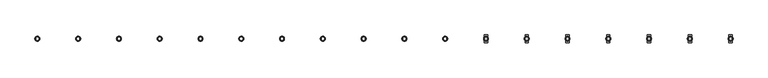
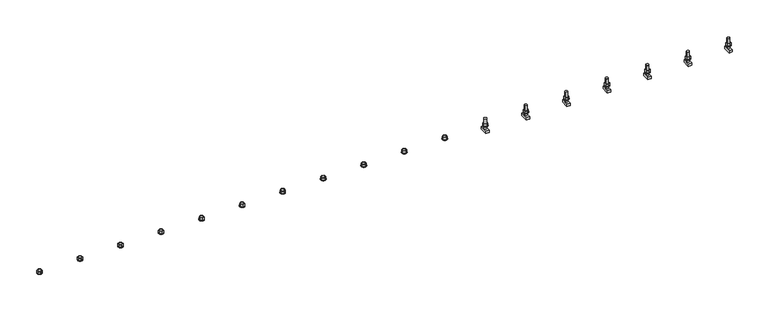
"""IFC4 building model written with IfcOpenShell, lengths in millimetres: fastener geometry, JTA-K JORDAHL® AnchorChannels : JTA-K L=6000 mm."""

from ifc_helpers import new_model, si_unit, point, frame, frame_2d, origin, place, context, project, spatial, polyline, circle_curve, trimmed, segment, composite_curve, outline, extrude, source, transform, mapped, element, save
from ifc_brep_helpers import plane_surface, cylinder_surface, advanced_brep


def fastener_20ff117f(model_context):
    return source(origin(), model_context, "Body", "SolidModel", [
        extrude(outline(polyline([(5617.1052632, -17.3205081), (5602.1052632, -8.660254), (5602.1052632, 8.660254), (5617.1052632, 17.3205081), (5632.1052632, 8.660254), (5632.1052632, -8.660254), (5617.1052632, -17.3205081)]), holes=[composite_curve([segment(trimmed(circle_curve(frame_2d((5617.1052632, 0.0)), 10.0), [point((5607.1052632, 0.0))], [point((5627.1052632, 0.0))], True, "CARTESIAN"), True, "CONTINUOUS"), segment(trimmed(circle_curve(frame_2d((5617.1052632, 0.0)), 10.0), [point((5627.1052632, 0.0))], [point((5607.1052632, 0.0))], True, "CARTESIAN"), True, "CONTINUOUS")], self_intersect=False)]), frame((0.0, 0.0, 18.0), z_axis=(0.0, 0.0, 1.0), x_axis=(1.0, 0.0, 0.0)), (0.0, 0.0, 1.0), 18.0),
        extrude(outline(composite_curve([segment(trimmed(circle_curve(frame_2d((5617.1052632, 0.0)), 18.5), [point((5598.6052632, 0.0))], [point((5635.6052632, 0.0))], False, "CARTESIAN"), True, "CONTINUOUS"), segment(trimmed(circle_curve(frame_2d((5617.1052632, 0.0)), 18.5), [point((5635.6052632, 0.0))], [point((5598.6052632, 0.0))], False, "CARTESIAN"), True, "CONTINUOUS")], self_intersect=False), holes=[composite_curve([segment(trimmed(circle_curve(frame_2d((5617.1052632, 0.0)), 10.5), [point((5606.6052632, 0.0))], [point((5627.6052632, 0.0))], True, "CARTESIAN"), True, "CONTINUOUS"), segment(trimmed(circle_curve(frame_2d((5617.1052632, 0.0)), 10.5), [point((5627.6052632, 0.0))], [point((5606.6052632, 0.0))], True, "CARTESIAN"), True, "CONTINUOUS")], self_intersect=False)]), frame((0.0, 0.0, 15.0), z_axis=(0.0, 0.0, 1.0), x_axis=(1.0, 0.0, 0.0)), (0.0, 0.0, 1.0), 3.0),
        extrude(outline(polyline([(5309.2105263, -17.3205081), (5294.2105263, -8.660254), (5294.2105263, 8.660254), (5309.2105263, 17.3205081), (5324.2105263, 8.660254), (5324.2105263, -8.660254), (5309.2105263, -17.3205081)]), holes=[composite_curve([segment(trimmed(circle_curve(frame_2d((5309.2105263, 0.0)), 10.0), [point((5299.2105263, 0.0))], [point((5319.2105263, 0.0))], True, "CARTESIAN"), True, "CONTINUOUS"), segment(trimmed(circle_curve(frame_2d((5309.2105263, 0.0)), 10.0), [point((5319.2105263, 0.0))], [point((5299.2105263, 0.0))], True, "CARTESIAN"), True, "CONTINUOUS")], self_intersect=False)]), frame((0.0, 0.0, 18.0), z_axis=(0.0, 0.0, 1.0), x_axis=(1.0, 0.0, 0.0)), (0.0, 0.0, 1.0), 18.0),
        extrude(outline(composite_curve([segment(trimmed(circle_curve(frame_2d((5309.2105263, 0.0)), 18.5), [point((5290.7105263, 0.0))], [point((5327.7105263, 0.0))], False, "CARTESIAN"), True, "CONTINUOUS"), segment(trimmed(circle_curve(frame_2d((5309.2105263, 0.0)), 18.5), [point((5327.7105263, 0.0))], [point((5290.7105263, 0.0))], False, "CARTESIAN"), True, "CONTINUOUS")], self_intersect=False), holes=[composite_curve([segment(trimmed(circle_curve(frame_2d((5309.2105263, 0.0)), 10.5), [point((5298.7105263, 0.0))], [point((5319.7105263, 0.0))], True, "CARTESIAN"), True, "CONTINUOUS"), segment(trimmed(circle_curve(frame_2d((5309.2105263, 0.0)), 10.5), [point((5319.7105263, 0.0))], [point((5298.7105263, 0.0))], True, "CARTESIAN"), True, "CONTINUOUS")], self_intersect=False)]), frame((0.0, 0.0, 15.0), z_axis=(0.0, 0.0, 1.0), x_axis=(1.0, 0.0, 0.0)), (0.0, 0.0, 1.0), 3.0),
        extrude(outline(polyline([(5001.3157895, -17.3205081), (4986.3157895, -8.660254), (4986.3157895, 8.660254), (5001.3157895, 17.3205081), (5016.3157895, 8.660254), (5016.3157895, -8.660254), (5001.3157895, -17.3205081)]), holes=[composite_curve([segment(trimmed(circle_curve(frame_2d((5001.3157895, 0.0)), 10.0), [point((4991.3157895, 0.0))], [point((5011.3157895, 0.0))], True, "CARTESIAN"), True, "CONTINUOUS"), segment(trimmed(circle_curve(frame_2d((5001.3157895, 0.0)), 10.0), [point((5011.3157895, 0.0))], [point((4991.3157895, 0.0))], True, "CARTESIAN"), True, "CONTINUOUS")], self_intersect=False)]), frame((0.0, 0.0, 18.0), z_axis=(0.0, 0.0, 1.0), x_axis=(1.0, 0.0, 0.0)), (0.0, 0.0, 1.0), 18.0),
        extrude(outline(composite_curve([segment(trimmed(circle_curve(frame_2d((5001.3157895, 0.0)), 18.5), [point((4982.8157895, 0.0))], [point((5019.8157895, 0.0))], False, "CARTESIAN"), True, "CONTINUOUS"), segment(trimmed(circle_curve(frame_2d((5001.3157895, 0.0)), 18.5), [point((5019.8157895, 0.0))], [point((4982.8157895, 0.0))], False, "CARTESIAN"), True, "CONTINUOUS")], self_intersect=False), holes=[composite_curve([segment(trimmed(circle_curve(frame_2d((5001.3157895, 0.0)), 10.5), [point((4990.8157895, 0.0))], [point((5011.8157895, 0.0))], True, "CARTESIAN"), True, "CONTINUOUS"), segment(trimmed(circle_curve(frame_2d((5001.3157895, 0.0)), 10.5), [point((5011.8157895, 0.0))], [point((4990.8157895, 0.0))], True, "CARTESIAN"), True, "CONTINUOUS")], self_intersect=False)]), frame((0.0, 0.0, 15.0), z_axis=(0.0, 0.0, 1.0), x_axis=(1.0, 0.0, 0.0)), (0.0, 0.0, 1.0), 3.0),
        extrude(outline(polyline([(4693.4210526, -17.3205081), (4678.4210526, -8.660254), (4678.4210526, 8.660254), (4693.4210526, 17.3205081), (4708.4210526, 8.660254), (4708.4210526, -8.660254), (4693.4210526, -17.3205081)]), holes=[composite_curve([segment(trimmed(circle_curve(frame_2d((4693.4210526, 0.0)), 10.0), [point((4683.4210526, 0.0))], [point((4703.4210526, 0.0))], True, "CARTESIAN"), True, "CONTINUOUS"), segment(trimmed(circle_curve(frame_2d((4693.4210526, 0.0)), 10.0), [point((4703.4210526, 0.0))], [point((4683.4210526, 0.0))], True, "CARTESIAN"), True, "CONTINUOUS")], self_intersect=False)]), frame((0.0, 0.0, 18.0), z_axis=(0.0, 0.0, 1.0), x_axis=(1.0, 0.0, 0.0)), (0.0, 0.0, 1.0), 18.0),
        extrude(outline(composite_curve([segment(trimmed(circle_curve(frame_2d((4693.4210526, 0.0)), 18.5), [point((4674.9210526, 0.0))], [point((4711.9210526, 0.0))], False, "CARTESIAN"), True, "CONTINUOUS"), segment(trimmed(circle_curve(frame_2d((4693.4210526, 0.0)), 18.5), [point((4711.9210526, 0.0))], [point((4674.9210526, 0.0))], False, "CARTESIAN"), True, "CONTINUOUS")], self_intersect=False), holes=[composite_curve([segment(trimmed(circle_curve(frame_2d((4693.4210526, 0.0)), 10.5), [point((4682.9210526, 0.0))], [point((4703.9210526, 0.0))], True, "CARTESIAN"), True, "CONTINUOUS"), segment(trimmed(circle_curve(frame_2d((4693.4210526, 0.0)), 10.5), [point((4703.9210526, 0.0))], [point((4682.9210526, 0.0))], True, "CARTESIAN"), True, "CONTINUOUS")], self_intersect=False)]), frame((0.0, 0.0, 15.0), z_axis=(0.0, 0.0, 1.0), x_axis=(1.0, 0.0, 0.0)), (0.0, 0.0, 1.0), 3.0),
        extrude(outline(polyline([(4385.5263158, -17.3205081), (4370.5263158, -8.660254), (4370.5263158, 8.660254), (4385.5263158, 17.3205081), (4400.5263158, 8.660254), (4400.5263158, -8.660254), (4385.5263158, -17.3205081)]), holes=[composite_curve([segment(trimmed(circle_curve(frame_2d((4385.5263158, 0.0)), 10.0), [point((4375.5263158, 0.0))], [point((4395.5263158, 0.0))], True, "CARTESIAN"), True, "CONTINUOUS"), segment(trimmed(circle_curve(frame_2d((4385.5263158, 0.0)), 10.0), [point((4395.5263158, 0.0))], [point((4375.5263158, 0.0))], True, "CARTESIAN"), True, "CONTINUOUS")], self_intersect=False)]), frame((0.0, 0.0, 18.0), z_axis=(0.0, 0.0, 1.0), x_axis=(1.0, 0.0, 0.0)), (0.0, 0.0, 1.0), 18.0),
        extrude(outline(composite_curve([segment(trimmed(circle_curve(frame_2d((4385.5263158, 0.0)), 18.5), [point((4367.0263158, 0.0))], [point((4404.0263158, 0.0))], False, "CARTESIAN"), True, "CONTINUOUS"), segment(trimmed(circle_curve(frame_2d((4385.5263158, 0.0)), 18.5), [point((4404.0263158, 0.0))], [point((4367.0263158, 0.0))], False, "CARTESIAN"), True, "CONTINUOUS")], self_intersect=False), holes=[composite_curve([segment(trimmed(circle_curve(frame_2d((4385.5263158, 0.0)), 10.5), [point((4375.0263158, 0.0))], [point((4396.0263158, 0.0))], True, "CARTESIAN"), True, "CONTINUOUS"), segment(trimmed(circle_curve(frame_2d((4385.5263158, 0.0)), 10.5), [point((4396.0263158, 0.0))], [point((4375.0263158, 0.0))], True, "CARTESIAN"), True, "CONTINUOUS")], self_intersect=False)]), frame((0.0, 0.0, 15.0), z_axis=(0.0, 0.0, 1.0), x_axis=(1.0, 0.0, 0.0)), (0.0, 0.0, 1.0), 3.0),
        extrude(outline(polyline([(4077.6315789, -17.3205081), (4062.6315789, -8.660254), (4062.6315789, 8.660254), (4077.6315789, 17.3205081), (4092.6315789, 8.660254), (4092.6315789, -8.660254), (4077.6315789, -17.3205081)]), holes=[composite_curve([segment(trimmed(circle_curve(frame_2d((4077.6315789, 0.0)), 10.0), [point((4067.6315789, 0.0))], [point((4087.6315789, 0.0))], True, "CARTESIAN"), True, "CONTINUOUS"), segment(trimmed(circle_curve(frame_2d((4077.6315789, 0.0)), 10.0), [point((4087.6315789, 0.0))], [point((4067.6315789, 0.0))], True, "CARTESIAN"), True, "CONTINUOUS")], self_intersect=False)]), frame((0.0, 0.0, 18.0), z_axis=(0.0, 0.0, 1.0), x_axis=(1.0, 0.0, 0.0)), (0.0, 0.0, 1.0), 18.0),
        extrude(outline(composite_curve([segment(trimmed(circle_curve(frame_2d((4077.6315789, 0.0)), 18.5), [point((4059.1315789, 0.0))], [point((4096.1315789, 0.0))], False, "CARTESIAN"), True, "CONTINUOUS"), segment(trimmed(circle_curve(frame_2d((4077.6315789, 0.0)), 18.5), [point((4096.1315789, 0.0))], [point((4059.1315789, 0.0))], False, "CARTESIAN"), True, "CONTINUOUS")], self_intersect=False), holes=[composite_curve([segment(trimmed(circle_curve(frame_2d((4077.6315789, 0.0)), 10.5), [point((4067.1315789, 0.0))], [point((4088.1315789, 0.0))], True, "CARTESIAN"), True, "CONTINUOUS"), segment(trimmed(circle_curve(frame_2d((4077.6315789, 0.0)), 10.5), [point((4088.1315789, 0.0))], [point((4067.1315789, 0.0))], True, "CARTESIAN"), True, "CONTINUOUS")], self_intersect=False)]), frame((0.0, 0.0, 15.0), z_axis=(0.0, 0.0, 1.0), x_axis=(1.0, 0.0, 0.0)), (0.0, 0.0, 1.0), 3.0),
        extrude(outline(polyline([(3769.7368421, -17.3205081), (3754.7368421, -8.660254), (3754.7368421, 8.660254), (3769.7368421, 17.3205081), (3784.7368421, 8.660254), (3784.7368421, -8.660254), (3769.7368421, -17.3205081)]), holes=[composite_curve([segment(trimmed(circle_curve(frame_2d((3769.7368421, 0.0)), 10.0), [point((3759.7368421, 0.0))], [point((3779.7368421, 0.0))], True, "CARTESIAN"), True, "CONTINUOUS"), segment(trimmed(circle_curve(frame_2d((3769.7368421, 0.0)), 10.0), [point((3779.7368421, 0.0))], [point((3759.7368421, 0.0))], True, "CARTESIAN"), True, "CONTINUOUS")], self_intersect=False)]), frame((0.0, 0.0, 18.0), z_axis=(0.0, 0.0, 1.0), x_axis=(1.0, 0.0, 0.0)), (0.0, 0.0, 1.0), 18.0),
        extrude(outline(composite_curve([segment(trimmed(circle_curve(frame_2d((3769.7368421, 0.0)), 18.5), [point((3751.2368421, 0.0))], [point((3788.2368421, 0.0))], False, "CARTESIAN"), True, "CONTINUOUS"), segment(trimmed(circle_curve(frame_2d((3769.7368421, 0.0)), 18.5), [point((3788.2368421, 0.0))], [point((3751.2368421, 0.0))], False, "CARTESIAN"), True, "CONTINUOUS")], self_intersect=False), holes=[composite_curve([segment(trimmed(circle_curve(frame_2d((3769.7368421, 0.0)), 10.5), [point((3759.2368421, 0.0))], [point((3780.2368421, 0.0))], True, "CARTESIAN"), True, "CONTINUOUS"), segment(trimmed(circle_curve(frame_2d((3769.7368421, 0.0)), 10.5), [point((3780.2368421, 0.0))], [point((3759.2368421, 0.0))], True, "CARTESIAN"), True, "CONTINUOUS")], self_intersect=False)]), frame((0.0, 0.0, 15.0), z_axis=(0.0, 0.0, 1.0), x_axis=(1.0, 0.0, 0.0)), (0.0, 0.0, 1.0), 3.0),
        extrude(outline(polyline([(3461.8421053, -17.3205081), (3446.8421053, -8.660254), (3446.8421053, 8.660254), (3461.8421053, 17.3205081), (3476.8421053, 8.660254), (3476.8421053, -8.660254), (3461.8421053, -17.3205081)]), holes=[composite_curve([segment(trimmed(circle_curve(frame_2d((3461.8421053, 0.0)), 10.0), [point((3451.8421053, 0.0))], [point((3471.8421053, 0.0))], True, "CARTESIAN"), True, "CONTINUOUS"), segment(trimmed(circle_curve(frame_2d((3461.8421053, 0.0)), 10.0), [point((3471.8421053, 0.0))], [point((3451.8421053, 0.0))], True, "CARTESIAN"), True, "CONTINUOUS")], self_intersect=False)]), frame((0.0, 0.0, 18.0), z_axis=(0.0, 0.0, 1.0), x_axis=(1.0, 0.0, 0.0)), (0.0, 0.0, 1.0), 18.0),
        extrude(outline(composite_curve([segment(trimmed(circle_curve(frame_2d((3461.8421053, 0.0)), 18.5), [point((3443.3421053, 0.0))], [point((3480.3421053, 0.0))], False, "CARTESIAN"), True, "CONTINUOUS"), segment(trimmed(circle_curve(frame_2d((3461.8421053, 0.0)), 18.5), [point((3480.3421053, 0.0))], [point((3443.3421053, 0.0))], False, "CARTESIAN"), True, "CONTINUOUS")], self_intersect=False), holes=[composite_curve([segment(trimmed(circle_curve(frame_2d((3461.8421053, 0.0)), 10.5), [point((3451.3421053, 0.0))], [point((3472.3421053, 0.0))], True, "CARTESIAN"), True, "CONTINUOUS"), segment(trimmed(circle_curve(frame_2d((3461.8421053, 0.0)), 10.5), [point((3472.3421053, 0.0))], [point((3451.3421053, 0.0))], True, "CARTESIAN"), True, "CONTINUOUS")], self_intersect=False)]), frame((0.0, 0.0, 15.0), z_axis=(0.0, 0.0, 1.0), x_axis=(1.0, 0.0, 0.0)), (0.0, 0.0, 1.0), 3.0),
        extrude(outline(polyline([(3153.9473684, -17.3205081), (3138.9473684, -8.660254), (3138.9473684, 8.660254), (3153.9473684, 17.3205081), (3168.9473684, 8.660254), (3168.9473684, -8.660254), (3153.9473684, -17.3205081)]), holes=[composite_curve([segment(trimmed(circle_curve(frame_2d((3153.9473684, 0.0)), 10.0), [point((3143.9473684, 0.0))], [point((3163.9473684, 0.0))], True, "CARTESIAN"), True, "CONTINUOUS"), segment(trimmed(circle_curve(frame_2d((3153.9473684, 0.0)), 10.0), [point((3163.9473684, 0.0))], [point((3143.9473684, 0.0))], True, "CARTESIAN"), True, "CONTINUOUS")], self_intersect=False)]), frame((0.0, 0.0, 18.0), z_axis=(0.0, 0.0, 1.0), x_axis=(1.0, 0.0, 0.0)), (0.0, 0.0, 1.0), 18.0),
        extrude(outline(composite_curve([segment(trimmed(circle_curve(frame_2d((3153.9473684, 0.0)), 18.5), [point((3135.4473684, 0.0))], [point((3172.4473684, 0.0))], False, "CARTESIAN"), True, "CONTINUOUS"), segment(trimmed(circle_curve(frame_2d((3153.9473684, 0.0)), 18.5), [point((3172.4473684, 0.0))], [point((3135.4473684, 0.0))], False, "CARTESIAN"), True, "CONTINUOUS")], self_intersect=False), holes=[composite_curve([segment(trimmed(circle_curve(frame_2d((3153.9473684, 0.0)), 10.5), [point((3143.4473684, 0.0))], [point((3164.4473684, 0.0))], True, "CARTESIAN"), True, "CONTINUOUS"), segment(trimmed(circle_curve(frame_2d((3153.9473684, 0.0)), 10.5), [point((3164.4473684, 0.0))], [point((3143.4473684, 0.0))], True, "CARTESIAN"), True, "CONTINUOUS")], self_intersect=False)]), frame((0.0, 0.0, 15.0), z_axis=(0.0, 0.0, 1.0), x_axis=(1.0, 0.0, 0.0)), (0.0, 0.0, 1.0), 3.0),
        extrude(outline(polyline([(2846.0526316, -17.3205081), (2831.0526316, -8.660254), (2831.0526316, 8.660254), (2846.0526316, 17.3205081), (2861.0526316, 8.660254), (2861.0526316, -8.660254), (2846.0526316, -17.3205081)]), holes=[composite_curve([segment(trimmed(circle_curve(frame_2d((2846.0526316, 0.0)), 10.0), [point((2836.0526316, 0.0))], [point((2856.0526316, 0.0))], True, "CARTESIAN"), True, "CONTINUOUS"), segment(trimmed(circle_curve(frame_2d((2846.0526316, 0.0)), 10.0), [point((2856.0526316, 0.0))], [point((2836.0526316, 0.0))], True, "CARTESIAN"), True, "CONTINUOUS")], self_intersect=False)]), frame((0.0, 0.0, 18.0), z_axis=(0.0, 0.0, 1.0), x_axis=(1.0, 0.0, 0.0)), (0.0, 0.0, 1.0), 18.0),
        extrude(outline(composite_curve([segment(trimmed(circle_curve(frame_2d((2846.0526316, 0.0)), 18.5), [point((2827.5526316, 0.0))], [point((2864.5526316, 0.0))], False, "CARTESIAN"), True, "CONTINUOUS"), segment(trimmed(circle_curve(frame_2d((2846.0526316, 0.0)), 18.5), [point((2864.5526316, 0.0))], [point((2827.5526316, 0.0))], False, "CARTESIAN"), True, "CONTINUOUS")], self_intersect=False), holes=[composite_curve([segment(trimmed(circle_curve(frame_2d((2846.0526316, 0.0)), 10.5), [point((2835.5526316, 0.0))], [point((2856.5526316, 0.0))], True, "CARTESIAN"), True, "CONTINUOUS"), segment(trimmed(circle_curve(frame_2d((2846.0526316, 0.0)), 10.5), [point((2856.5526316, 0.0))], [point((2835.5526316, 0.0))], True, "CARTESIAN"), True, "CONTINUOUS")], self_intersect=False)]), frame((0.0, 0.0, 15.0), z_axis=(0.0, 0.0, 1.0), x_axis=(1.0, 0.0, 0.0)), (0.0, 0.0, 1.0), 3.0),
        extrude(outline(polyline([(2538.1578947, -17.3205081), (2523.1578947, -8.660254), (2523.1578947, 8.660254), (2538.1578947, 17.3205081), (2553.1578947, 8.660254), (2553.1578947, -8.660254), (2538.1578947, -17.3205081)]), holes=[composite_curve([segment(trimmed(circle_curve(frame_2d((2538.1578947, 0.0)), 10.0), [point((2528.1578947, 0.0))], [point((2548.1578947, 0.0))], True, "CARTESIAN"), True, "CONTINUOUS"), segment(trimmed(circle_curve(frame_2d((2538.1578947, 0.0)), 10.0), [point((2548.1578947, 0.0))], [point((2528.1578947, 0.0))], True, "CARTESIAN"), True, "CONTINUOUS")], self_intersect=False)]), frame((0.0, 0.0, 18.0), z_axis=(0.0, 0.0, 1.0), x_axis=(1.0, 0.0, 0.0)), (0.0, 0.0, 1.0), 18.0),
        extrude(outline(composite_curve([segment(trimmed(circle_curve(frame_2d((2538.1578947, 0.0)), 18.5), [point((2519.6578947, 0.0))], [point((2556.6578947, 0.0))], False, "CARTESIAN"), True, "CONTINUOUS"), segment(trimmed(circle_curve(frame_2d((2538.1578947, 0.0)), 18.5), [point((2556.6578947, 0.0))], [point((2519.6578947, 0.0))], False, "CARTESIAN"), True, "CONTINUOUS")], self_intersect=False), holes=[composite_curve([segment(trimmed(circle_curve(frame_2d((2538.1578947, 0.0)), 10.5), [point((2527.6578947, 0.0))], [point((2548.6578947, 0.0))], True, "CARTESIAN"), True, "CONTINUOUS"), segment(trimmed(circle_curve(frame_2d((2538.1578947, 0.0)), 10.5), [point((2548.6578947, 0.0))], [point((2527.6578947, 0.0))], True, "CARTESIAN"), True, "CONTINUOUS")], self_intersect=False)]), frame((0.0, 0.0, 15.0), z_axis=(0.0, 0.0, 1.0), x_axis=(1.0, 0.0, 0.0)), (0.0, 0.0, 1.0), 3.0),
        extrude(outline(polyline([(2230.2631579, -17.3205081), (2215.2631579, -8.660254), (2215.2631579, 8.660254), (2230.2631579, 17.3205081), (2245.2631579, 8.660254), (2245.2631579, -8.660254), (2230.2631579, -17.3205081)]), holes=[composite_curve([segment(trimmed(circle_curve(frame_2d((2230.2631579, 0.0)), 10.0), [point((2220.2631579, 0.0))], [point((2240.2631579, 0.0))], True, "CARTESIAN"), True, "CONTINUOUS"), segment(trimmed(circle_curve(frame_2d((2230.2631579, 0.0)), 10.0), [point((2240.2631579, 0.0))], [point((2220.2631579, 0.0))], True, "CARTESIAN"), True, "CONTINUOUS")], self_intersect=False)]), frame((0.0, 0.0, 18.0), z_axis=(0.0, 0.0, 1.0), x_axis=(1.0, 0.0, 0.0)), (0.0, 0.0, 1.0), 18.0),
        extrude(outline(composite_curve([segment(trimmed(circle_curve(frame_2d((2230.2631579, 0.0)), 18.5), [point((2211.7631579, 0.0))], [point((2248.7631579, 0.0))], False, "CARTESIAN"), True, "CONTINUOUS"), segment(trimmed(circle_curve(frame_2d((2230.2631579, 0.0)), 18.5), [point((2248.7631579, 0.0))], [point((2211.7631579, 0.0))], False, "CARTESIAN"), True, "CONTINUOUS")], self_intersect=False), holes=[composite_curve([segment(trimmed(circle_curve(frame_2d((2230.2631579, 0.0)), 10.5), [point((2219.7631579, 0.0))], [point((2240.7631579, 0.0))], True, "CARTESIAN"), True, "CONTINUOUS"), segment(trimmed(circle_curve(frame_2d((2230.2631579, 0.0)), 10.5), [point((2240.7631579, 0.0))], [point((2219.7631579, 0.0))], True, "CARTESIAN"), True, "CONTINUOUS")], self_intersect=False)]), frame((0.0, 0.0, 15.0), z_axis=(0.0, 0.0, 1.0), x_axis=(1.0, 0.0, 0.0)), (0.0, 0.0, 1.0), 3.0),
        extrude(outline(polyline([(1922.3684211, -17.3205081), (1907.3684211, -8.660254), (1907.3684211, 8.660254), (1922.3684211, 17.3205081), (1937.3684211, 8.660254), (1937.3684211, -8.660254), (1922.3684211, -17.3205081)]), holes=[composite_curve([segment(trimmed(circle_curve(frame_2d((1922.3684211, 0.0)), 10.0), [point((1912.3684211, 0.0))], [point((1932.3684211, 0.0))], True, "CARTESIAN"), True, "CONTINUOUS"), segment(trimmed(circle_curve(frame_2d((1922.3684211, 0.0)), 10.0), [point((1932.3684211, 0.0))], [point((1912.3684211, 0.0))], True, "CARTESIAN"), True, "CONTINUOUS")], self_intersect=False)]), frame((0.0, 0.0, 18.0), z_axis=(0.0, 0.0, 1.0), x_axis=(1.0, 0.0, 0.0)), (0.0, 0.0, 1.0), 18.0),
        extrude(outline(composite_curve([segment(trimmed(circle_curve(frame_2d((1922.3684211, 0.0)), 18.5), [point((1903.8684211, 0.0))], [point((1940.8684211, 0.0))], False, "CARTESIAN"), True, "CONTINUOUS"), segment(trimmed(circle_curve(frame_2d((1922.3684211, 0.0)), 18.5), [point((1940.8684211, 0.0))], [point((1903.8684211, 0.0))], False, "CARTESIAN"), True, "CONTINUOUS")], self_intersect=False), holes=[composite_curve([segment(trimmed(circle_curve(frame_2d((1922.3684211, 0.0)), 10.5), [point((1911.8684211, 0.0))], [point((1932.8684211, 0.0))], True, "CARTESIAN"), True, "CONTINUOUS"), segment(trimmed(circle_curve(frame_2d((1922.3684211, 0.0)), 10.5), [point((1932.8684211, 0.0))], [point((1911.8684211, 0.0))], True, "CARTESIAN"), True, "CONTINUOUS")], self_intersect=False)]), frame((0.0, 0.0, 15.0), z_axis=(0.0, 0.0, 1.0), x_axis=(1.0, 0.0, 0.0)), (0.0, 0.0, 1.0), 3.0),
        extrude(outline(polyline([(1614.4736842, -17.3205081), (1599.4736842, -8.660254), (1599.4736842, 8.660254), (1614.4736842, 17.3205081), (1629.4736842, 8.660254), (1629.4736842, -8.660254), (1614.4736842, -17.3205081)]), holes=[composite_curve([segment(trimmed(circle_curve(frame_2d((1614.4736842, 0.0)), 10.0), [point((1604.4736842, 0.0))], [point((1624.4736842, 0.0))], True, "CARTESIAN"), True, "CONTINUOUS"), segment(trimmed(circle_curve(frame_2d((1614.4736842, 0.0)), 10.0), [point((1624.4736842, 0.0))], [point((1604.4736842, 0.0))], True, "CARTESIAN"), True, "CONTINUOUS")], self_intersect=False)]), frame((0.0, 0.0, 18.0), z_axis=(0.0, 0.0, 1.0), x_axis=(1.0, 0.0, 0.0)), (0.0, 0.0, 1.0), 18.0),
        extrude(outline(composite_curve([segment(trimmed(circle_curve(frame_2d((1614.4736842, 0.0)), 18.5), [point((1595.9736842, 0.0))], [point((1632.9736842, 0.0))], False, "CARTESIAN"), True, "CONTINUOUS"), segment(trimmed(circle_curve(frame_2d((1614.4736842, 0.0)), 18.5), [point((1632.9736842, 0.0))], [point((1595.9736842, 0.0))], False, "CARTESIAN"), True, "CONTINUOUS")], self_intersect=False), holes=[composite_curve([segment(trimmed(circle_curve(frame_2d((1614.4736842, 0.0)), 10.5), [point((1603.9736842, 0.0))], [point((1624.9736842, 0.0))], True, "CARTESIAN"), True, "CONTINUOUS"), segment(trimmed(circle_curve(frame_2d((1614.4736842, 0.0)), 10.5), [point((1624.9736842, 0.0))], [point((1603.9736842, 0.0))], True, "CARTESIAN"), True, "CONTINUOUS")], self_intersect=False)]), frame((0.0, 0.0, 15.0), z_axis=(0.0, 0.0, 1.0), x_axis=(1.0, 0.0, 0.0)), (0.0, 0.0, 1.0), 3.0),
        extrude(outline(polyline([(1306.5789474, -17.3205081), (1291.5789474, -8.660254), (1291.5789474, 8.660254), (1306.5789474, 17.3205081), (1321.5789474, 8.660254), (1321.5789474, -8.660254), (1306.5789474, -17.3205081)]), holes=[composite_curve([segment(trimmed(circle_curve(frame_2d((1306.5789474, 0.0)), 10.0), [point((1296.5789474, 0.0))], [point((1316.5789474, 0.0))], True, "CARTESIAN"), True, "CONTINUOUS"), segment(trimmed(circle_curve(frame_2d((1306.5789474, 0.0)), 10.0), [point((1316.5789474, 0.0))], [point((1296.5789474, 0.0))], True, "CARTESIAN"), True, "CONTINUOUS")], self_intersect=False)]), frame((0.0, 0.0, 18.0), z_axis=(0.0, 0.0, 1.0), x_axis=(1.0, 0.0, 0.0)), (0.0, 0.0, 1.0), 18.0),
        extrude(outline(composite_curve([segment(trimmed(circle_curve(frame_2d((1306.5789474, 0.0)), 18.5), [point((1288.0789474, 0.0))], [point((1325.0789474, 0.0))], False, "CARTESIAN"), True, "CONTINUOUS"), segment(trimmed(circle_curve(frame_2d((1306.5789474, 0.0)), 18.5), [point((1325.0789474, 0.0))], [point((1288.0789474, 0.0))], False, "CARTESIAN"), True, "CONTINUOUS")], self_intersect=False), holes=[composite_curve([segment(trimmed(circle_curve(frame_2d((1306.5789474, 0.0)), 10.5), [point((1296.0789474, 0.0))], [point((1317.0789474, 0.0))], True, "CARTESIAN"), True, "CONTINUOUS"), segment(trimmed(circle_curve(frame_2d((1306.5789474, 0.0)), 10.5), [point((1317.0789474, 0.0))], [point((1296.0789474, 0.0))], True, "CARTESIAN"), True, "CONTINUOUS")], self_intersect=False)]), frame((0.0, 0.0, 15.0), z_axis=(0.0, 0.0, 1.0), x_axis=(1.0, 0.0, 0.0)), (0.0, 0.0, 1.0), 3.0),
        extrude(outline(polyline([(998.6842105, -17.3205081), (983.6842105, -8.660254), (983.6842105, 8.660254), (998.6842105, 17.3205081), (1013.6842105, 8.660254), (1013.6842105, -8.660254), (998.6842105, -17.3205081)]), holes=[composite_curve([segment(trimmed(circle_curve(frame_2d((998.6842105, 0.0)), 10.0), [point((988.6842105, 0.0))], [point((1008.6842105, 0.0))], True, "CARTESIAN"), True, "CONTINUOUS"), segment(trimmed(circle_curve(frame_2d((998.6842105, 0.0)), 10.0), [point((1008.6842105, 0.0))], [point((988.6842105, 0.0))], True, "CARTESIAN"), True, "CONTINUOUS")], self_intersect=False)]), frame((0.0, 0.0, 18.0), z_axis=(0.0, 0.0, 1.0), x_axis=(1.0, 0.0, 0.0)), (0.0, 0.0, 1.0), 18.0),
        extrude(outline(composite_curve([segment(trimmed(circle_curve(frame_2d((998.6842105, 0.0)), 18.5), [point((980.1842105, 0.0))], [point((1017.1842105, 0.0))], False, "CARTESIAN"), True, "CONTINUOUS"), segment(trimmed(circle_curve(frame_2d((998.6842105, 0.0)), 18.5), [point((1017.1842105, 0.0))], [point((980.1842105, 0.0))], False, "CARTESIAN"), True, "CONTINUOUS")], self_intersect=False), holes=[composite_curve([segment(trimmed(circle_curve(frame_2d((998.6842105, 0.0)), 10.5), [point((988.1842105, 0.0))], [point((1009.1842105, 0.0))], True, "CARTESIAN"), True, "CONTINUOUS"), segment(trimmed(circle_curve(frame_2d((998.6842105, 0.0)), 10.5), [point((1009.1842105, 0.0))], [point((988.1842105, 0.0))], True, "CARTESIAN"), True, "CONTINUOUS")], self_intersect=False)]), frame((0.0, 0.0, 15.0), z_axis=(0.0, 0.0, 1.0), x_axis=(1.0, 0.0, 0.0)), (0.0, 0.0, 1.0), 3.0),
        extrude(outline(polyline([(690.7894737, -17.3205081), (675.7894737, -8.660254), (675.7894737, 8.660254), (690.7894737, 17.3205081), (705.7894737, 8.660254), (705.7894737, -8.660254), (690.7894737, -17.3205081)]), holes=[composite_curve([segment(trimmed(circle_curve(frame_2d((690.7894737, 0.0)), 10.0), [point((680.7894737, 0.0))], [point((700.7894737, 0.0))], True, "CARTESIAN"), True, "CONTINUOUS"), segment(trimmed(circle_curve(frame_2d((690.7894737, 0.0)), 10.0), [point((700.7894737, 0.0))], [point((680.7894737, 0.0))], True, "CARTESIAN"), True, "CONTINUOUS")], self_intersect=False)]), frame((0.0, 0.0, 18.0), z_axis=(0.0, 0.0, 1.0), x_axis=(1.0, 0.0, 0.0)), (0.0, 0.0, 1.0), 18.0),
        extrude(outline(composite_curve([segment(trimmed(circle_curve(frame_2d((690.7894737, 0.0)), 18.5), [point((672.2894737, 0.0))], [point((709.2894737, 0.0))], False, "CARTESIAN"), True, "CONTINUOUS"), segment(trimmed(circle_curve(frame_2d((690.7894737, 0.0)), 18.5), [point((709.2894737, 0.0))], [point((672.2894737, 0.0))], False, "CARTESIAN"), True, "CONTINUOUS")], self_intersect=False), holes=[composite_curve([segment(trimmed(circle_curve(frame_2d((690.7894737, 0.0)), 10.5), [point((680.2894737, 0.0))], [point((701.2894737, 0.0))], True, "CARTESIAN"), True, "CONTINUOUS"), segment(trimmed(circle_curve(frame_2d((690.7894737, 0.0)), 10.5), [point((701.2894737, 0.0))], [point((680.2894737, 0.0))], True, "CARTESIAN"), True, "CONTINUOUS")], self_intersect=False)]), frame((0.0, 0.0, 15.0), z_axis=(0.0, 0.0, 1.0), x_axis=(1.0, 0.0, 0.0)), (0.0, 0.0, 1.0), 3.0),
        extrude(outline(polyline([(382.8947368, -17.3205081), (367.8947368, -8.660254), (367.8947368, 8.660254), (382.8947368, 17.3205081), (397.8947368, 8.660254), (397.8947368, -8.660254), (382.8947368, -17.3205081)]), holes=[composite_curve([segment(trimmed(circle_curve(frame_2d((382.8947368, 0.0)), 10.0), [point((372.8947368, 0.0))], [point((392.8947368, 0.0))], True, "CARTESIAN"), True, "CONTINUOUS"), segment(trimmed(circle_curve(frame_2d((382.8947368, 0.0)), 10.0), [point((392.8947368, 0.0))], [point((372.8947368, 0.0))], True, "CARTESIAN"), True, "CONTINUOUS")], self_intersect=False)]), frame((0.0, 0.0, 18.0), z_axis=(0.0, 0.0, 1.0), x_axis=(1.0, 0.0, 0.0)), (0.0, 0.0, 1.0), 18.0),
        extrude(outline(composite_curve([segment(trimmed(circle_curve(frame_2d((382.8947368, 0.0)), 18.5), [point((364.3947368, 0.0))], [point((401.3947368, 0.0))], False, "CARTESIAN"), True, "CONTINUOUS"), segment(trimmed(circle_curve(frame_2d((382.8947368, 0.0)), 18.5), [point((401.3947368, 0.0))], [point((364.3947368, 0.0))], False, "CARTESIAN"), True, "CONTINUOUS")], self_intersect=False), holes=[composite_curve([segment(trimmed(circle_curve(frame_2d((382.8947368, 0.0)), 10.5), [point((372.3947368, 0.0))], [point((393.3947368, 0.0))], True, "CARTESIAN"), True, "CONTINUOUS"), segment(trimmed(circle_curve(frame_2d((382.8947368, 0.0)), 10.5), [point((393.3947368, 0.0))], [point((372.3947368, 0.0))], True, "CARTESIAN"), True, "CONTINUOUS")], self_intersect=False)]), frame((0.0, 0.0, 15.0), z_axis=(0.0, 0.0, 1.0), x_axis=(1.0, 0.0, 0.0)), (0.0, 0.0, 1.0), 3.0),
        advanced_brep(
        [(5629.6052632, -29.0, -6.0), (5629.6052632, -29.0, -26.0), (5629.6052632, 29.0, -26.0), (5629.6052632, 29.0, -6.0), (5604.6052632, -29.0, -6.0), (5604.6052632, 29.0, -6.0), (5604.6052632, 29.0, -26.0), (5604.6052632, -29.0, -26.0), (5627.1052632, 0.0, -6.0), (5607.1052632, 0.0, -6.0), (5607.1052632, 0.0, 74.0), (5627.1052632, 0.0, 74.0)],
        [
            (0, 1),
            (1, 2),
            (2, 3),
            (3, 0),
            (4, 5),
            (5, 6),
            (6, 7),
            (7, 4),
            (3, 5),
            (4, 0),
            (8, 9, circle_curve(frame((5617.1052632, 0.0, -6.0), z_axis=(0.0, 0.0, -1.0), x_axis=(1.0, 0.0, 0.0)), 10.0)),
            (9, 8, circle_curve(frame((5617.1052632, 0.0, -6.0), z_axis=(0.0, 0.0, -1.0), x_axis=(1.0, 0.0, 0.0)), 10.0)),
            (2, 6),
            (1, 7),
            (10, 11, circle_curve(frame((5617.1052632, 0.0, 74.0), z_axis=(0.0, 0.0, 1.0), x_axis=(1.0, 0.0, 0.0)), 10.0)),
            (11, 10, circle_curve(frame((5617.1052632, 0.0, 74.0), z_axis=(0.0, 0.0, 1.0), x_axis=(1.0, 0.0, 0.0)), 10.0)),
            (11, 8),
            (9, 10),
        ],
        [
            plane_surface(frame((5629.6052632, 29.0, -6.0), z_axis=(1.0, 0.0, 0.0), x_axis=(0.0, 1.0, 0.0))),
            plane_surface(frame((5604.6052632, 29.0, -6.0), z_axis=(-1.0, 0.0, 0.0), x_axis=(0.0, -1.0, 0.0))),
            plane_surface(frame((5629.6052632, -29.0, -6.0), z_axis=(0.0, 0.0, 1.0), x_axis=(-1.0, 0.0, 0.0))),
            plane_surface(frame((5629.6052632, 29.0, -6.0), z_axis=(0.0, 1.0, 0.0), x_axis=(-1.0, 0.0, 0.0))),
            plane_surface(frame((5629.6052632, 29.0, -26.0), z_axis=(0.0, 0.0, -1.0), x_axis=(-1.0, 0.0, 0.0))),
            plane_surface(frame((5629.6052632, -29.0, -26.0), z_axis=(0.0, -1.0, 0.0), x_axis=(-1.0, 0.0, 0.0))),
            plane_surface(frame((5627.1052632, 0.0, 74.0), z_axis=(0.0, 0.0, 1.0), x_axis=(0.0, -1.0, 0.0))),
            cylinder_surface(frame((5617.1052632, 0.0, -6.0), z_axis=(0.0, 0.0, 1.0), x_axis=(1.0, 0.0, 0.0)), 10.0),
        ],
        [
            (0, [[1, 2, 3, 4]]),
            (1, [[5, 6, 7, 8]]),
            (2, [[9, -5, 10, -4], [11, 12]]),
            (3, [[13, -6, -9, -3]]),
            (4, [[14, -7, -13, -2]]),
            (5, [[-10, -8, -14, -1]]),
            (6, [[15, 16]]),
            (7, [[17, -12, 18, -16]]),
            (7, [[-18, -11, -17, -15]]),
        ],
    ),
        advanced_brep(
        [(5321.7105263, -29.0, -6.0), (5321.7105263, -29.0, -26.0), (5321.7105263, 29.0, -26.0), (5321.7105263, 29.0, -6.0), (5296.7105263, -29.0, -6.0), (5296.7105263, 29.0, -6.0), (5296.7105263, 29.0, -26.0), (5296.7105263, -29.0, -26.0), (5319.2105263, 0.0, -6.0), (5299.2105263, 0.0, -6.0), (5299.2105263, 0.0, 74.0), (5319.2105263, 0.0, 74.0)],
        [
            (0, 1),
            (1, 2),
            (2, 3),
            (3, 0),
            (4, 5),
            (5, 6),
            (6, 7),
            (7, 4),
            (3, 5),
            (4, 0),
            (8, 9, circle_curve(frame((5309.2105263, 0.0, -6.0), z_axis=(0.0, 0.0, -1.0), x_axis=(1.0, 0.0, 0.0)), 10.0)),
            (9, 8, circle_curve(frame((5309.2105263, 0.0, -6.0), z_axis=(0.0, 0.0, -1.0), x_axis=(1.0, 0.0, 0.0)), 10.0)),
            (2, 6),
            (1, 7),
            (10, 11, circle_curve(frame((5309.2105263, 0.0, 74.0), z_axis=(0.0, 0.0, 1.0), x_axis=(1.0, 0.0, 0.0)), 10.0)),
            (11, 10, circle_curve(frame((5309.2105263, 0.0, 74.0), z_axis=(0.0, 0.0, 1.0), x_axis=(1.0, 0.0, 0.0)), 10.0)),
            (11, 8),
            (9, 10),
        ],
        [
            plane_surface(frame((5321.7105263, 29.0, -6.0), z_axis=(1.0, 0.0, 0.0), x_axis=(0.0, 1.0, 0.0))),
            plane_surface(frame((5296.7105263, 29.0, -6.0), z_axis=(-1.0, 0.0, 0.0), x_axis=(0.0, -1.0, 0.0))),
            plane_surface(frame((5321.7105263, -29.0, -6.0), z_axis=(0.0, 0.0, 1.0), x_axis=(-1.0, 0.0, 0.0))),
            plane_surface(frame((5321.7105263, 29.0, -6.0), z_axis=(0.0, 1.0, 0.0), x_axis=(-1.0, 0.0, 0.0))),
            plane_surface(frame((5321.7105263, 29.0, -26.0), z_axis=(0.0, 0.0, -1.0), x_axis=(-1.0, 0.0, 0.0))),
            plane_surface(frame((5321.7105263, -29.0, -26.0), z_axis=(0.0, -1.0, 0.0), x_axis=(-1.0, 0.0, 0.0))),
            plane_surface(frame((5319.2105263, 0.0, 74.0), z_axis=(0.0, 0.0, 1.0), x_axis=(0.0, -1.0, 0.0))),
            cylinder_surface(frame((5309.2105263, 0.0, -6.0), z_axis=(0.0, 0.0, 1.0), x_axis=(1.0, 0.0, 0.0)), 10.0),
        ],
        [
            (0, [[1, 2, 3, 4]]),
            (1, [[5, 6, 7, 8]]),
            (2, [[9, -5, 10, -4], [11, 12]]),
            (3, [[13, -6, -9, -3]]),
            (4, [[14, -7, -13, -2]]),
            (5, [[-10, -8, -14, -1]]),
            (6, [[15, 16]]),
            (7, [[17, -12, 18, -16]]),
            (7, [[-18, -11, -17, -15]]),
        ],
    ),
        advanced_brep(
        [(5013.8157895, -29.0, -6.0), (5013.8157895, -29.0, -26.0), (5013.8157895, 29.0, -26.0), (5013.8157895, 29.0, -6.0), (4988.8157895, -29.0, -6.0), (4988.8157895, 29.0, -6.0), (4988.8157895, 29.0, -26.0), (4988.8157895, -29.0, -26.0), (5011.3157895, 0.0, -6.0), (4991.3157895, 0.0, -6.0), (4991.3157895, 0.0, 74.0), (5011.3157895, 0.0, 74.0)],
        [
            (0, 1),
            (1, 2),
            (2, 3),
            (3, 0),
            (4, 5),
            (5, 6),
            (6, 7),
            (7, 4),
            (3, 5),
            (4, 0),
            (8, 9, circle_curve(frame((5001.3157895, 0.0, -6.0), z_axis=(0.0, 0.0, -1.0), x_axis=(1.0, 0.0, 0.0)), 10.0)),
            (9, 8, circle_curve(frame((5001.3157895, 0.0, -6.0), z_axis=(0.0, 0.0, -1.0), x_axis=(1.0, 0.0, 0.0)), 10.0)),
            (2, 6),
            (1, 7),
            (10, 11, circle_curve(frame((5001.3157895, 0.0, 74.0), z_axis=(0.0, 0.0, 1.0), x_axis=(1.0, 0.0, 0.0)), 10.0)),
            (11, 10, circle_curve(frame((5001.3157895, 0.0, 74.0), z_axis=(0.0, 0.0, 1.0), x_axis=(1.0, 0.0, 0.0)), 10.0)),
            (11, 8),
            (9, 10),
        ],
        [
            plane_surface(frame((5013.8157895, 29.0, -6.0), z_axis=(1.0, 0.0, 0.0), x_axis=(0.0, 1.0, 0.0))),
            plane_surface(frame((4988.8157895, 29.0, -6.0), z_axis=(-1.0, 0.0, 0.0), x_axis=(0.0, -1.0, 0.0))),
            plane_surface(frame((5013.8157895, -29.0, -6.0), z_axis=(0.0, 0.0, 1.0), x_axis=(-1.0, 0.0, 0.0))),
            plane_surface(frame((5013.8157895, 29.0, -6.0), z_axis=(0.0, 1.0, 0.0), x_axis=(-1.0, 0.0, 0.0))),
            plane_surface(frame((5013.8157895, 29.0, -26.0), z_axis=(0.0, 0.0, -1.0), x_axis=(-1.0, 0.0, 0.0))),
            plane_surface(frame((5013.8157895, -29.0, -26.0), z_axis=(0.0, -1.0, 0.0), x_axis=(-1.0, 0.0, 0.0))),
            plane_surface(frame((5011.3157895, 0.0, 74.0), z_axis=(0.0, 0.0, 1.0), x_axis=(0.0, -1.0, 0.0))),
            cylinder_surface(frame((5001.3157895, 0.0, -6.0), z_axis=(0.0, 0.0, 1.0), x_axis=(1.0, 0.0, 0.0)), 10.0),
        ],
        [
            (0, [[1, 2, 3, 4]]),
            (1, [[5, 6, 7, 8]]),
            (2, [[9, -5, 10, -4], [11, 12]]),
            (3, [[13, -6, -9, -3]]),
            (4, [[14, -7, -13, -2]]),
            (5, [[-10, -8, -14, -1]]),
            (6, [[15, 16]]),
            (7, [[17, -12, 18, -16]]),
            (7, [[-18, -11, -17, -15]]),
        ],
    ),
        advanced_brep(
        [(4705.9210526, -29.0, -6.0), (4705.9210526, -29.0, -26.0), (4705.9210526, 29.0, -26.0), (4705.9210526, 29.0, -6.0), (4680.9210526, -29.0, -6.0), (4680.9210526, 29.0, -6.0), (4680.9210526, 29.0, -26.0), (4680.9210526, -29.0, -26.0), (4703.4210526, 0.0, -6.0), (4683.4210526, 0.0, -6.0), (4683.4210526, 0.0, 74.0), (4703.4210526, 0.0, 74.0)],
        [
            (0, 1),
            (1, 2),
            (2, 3),
            (3, 0),
            (4, 5),
            (5, 6),
            (6, 7),
            (7, 4),
            (3, 5),
            (4, 0),
            (8, 9, circle_curve(frame((4693.4210526, 0.0, -6.0), z_axis=(0.0, 0.0, -1.0), x_axis=(1.0, 0.0, 0.0)), 10.0)),
            (9, 8, circle_curve(frame((4693.4210526, 0.0, -6.0), z_axis=(0.0, 0.0, -1.0), x_axis=(1.0, 0.0, 0.0)), 10.0)),
            (2, 6),
            (1, 7),
            (10, 11, circle_curve(frame((4693.4210526, 0.0, 74.0), z_axis=(0.0, 0.0, 1.0), x_axis=(1.0, 0.0, 0.0)), 10.0)),
            (11, 10, circle_curve(frame((4693.4210526, 0.0, 74.0), z_axis=(0.0, 0.0, 1.0), x_axis=(1.0, 0.0, 0.0)), 10.0)),
            (11, 8),
            (9, 10),
        ],
        [
            plane_surface(frame((4705.9210526, 29.0, -6.0), z_axis=(1.0, 0.0, 0.0), x_axis=(0.0, 1.0, 0.0))),
            plane_surface(frame((4680.9210526, 29.0, -6.0), z_axis=(-1.0, 0.0, 0.0), x_axis=(0.0, -1.0, 0.0))),
            plane_surface(frame((4705.9210526, -29.0, -6.0), z_axis=(0.0, 0.0, 1.0), x_axis=(-1.0, 0.0, 0.0))),
            plane_surface(frame((4705.9210526, 29.0, -6.0), z_axis=(0.0, 1.0, 0.0), x_axis=(-1.0, 0.0, 0.0))),
            plane_surface(frame((4705.9210526, 29.0, -26.0), z_axis=(0.0, 0.0, -1.0), x_axis=(-1.0, 0.0, 0.0))),
            plane_surface(frame((4705.9210526, -29.0, -26.0), z_axis=(0.0, -1.0, 0.0), x_axis=(-1.0, 0.0, 0.0))),
            plane_surface(frame((4703.4210526, 0.0, 74.0), z_axis=(0.0, 0.0, 1.0), x_axis=(0.0, -1.0, 0.0))),
            cylinder_surface(frame((4693.4210526, 0.0, -6.0), z_axis=(0.0, 0.0, 1.0), x_axis=(1.0, 0.0, 0.0)), 10.0),
        ],
        [
            (0, [[1, 2, 3, 4]]),
            (1, [[5, 6, 7, 8]]),
            (2, [[9, -5, 10, -4], [11, 12]]),
            (3, [[13, -6, -9, -3]]),
            (4, [[14, -7, -13, -2]]),
            (5, [[-10, -8, -14, -1]]),
            (6, [[15, 16]]),
            (7, [[17, -12, 18, -16]]),
            (7, [[-18, -11, -17, -15]]),
        ],
    ),
        advanced_brep(
        [(4398.0263158, -29.0, -6.0), (4398.0263158, -29.0, -26.0), (4398.0263158, 29.0, -26.0), (4398.0263158, 29.0, -6.0), (4373.0263158, -29.0, -6.0), (4373.0263158, 29.0, -6.0), (4373.0263158, 29.0, -26.0), (4373.0263158, -29.0, -26.0), (4395.5263158, 0.0, -6.0), (4375.5263158, 0.0, -6.0), (4375.5263158, 0.0, 74.0), (4395.5263158, 0.0, 74.0)],
        [
            (0, 1),
            (1, 2),
            (2, 3),
            (3, 0),
            (4, 5),
            (5, 6),
            (6, 7),
            (7, 4),
            (3, 5),
            (4, 0),
            (8, 9, circle_curve(frame((4385.5263158, 0.0, -6.0), z_axis=(0.0, 0.0, -1.0), x_axis=(1.0, 0.0, 0.0)), 10.0)),
            (9, 8, circle_curve(frame((4385.5263158, 0.0, -6.0), z_axis=(0.0, 0.0, -1.0), x_axis=(1.0, 0.0, 0.0)), 10.0)),
            (2, 6),
            (1, 7),
            (10, 11, circle_curve(frame((4385.5263158, 0.0, 74.0), z_axis=(0.0, 0.0, 1.0), x_axis=(1.0, 0.0, 0.0)), 10.0)),
            (11, 10, circle_curve(frame((4385.5263158, 0.0, 74.0), z_axis=(0.0, 0.0, 1.0), x_axis=(1.0, 0.0, 0.0)), 10.0)),
            (11, 8),
            (9, 10),
        ],
        [
            plane_surface(frame((4398.0263158, 29.0, -6.0), z_axis=(1.0, 0.0, 0.0), x_axis=(0.0, 1.0, 0.0))),
            plane_surface(frame((4373.0263158, 29.0, -6.0), z_axis=(-1.0, 0.0, 0.0), x_axis=(0.0, -1.0, 0.0))),
            plane_surface(frame((4398.0263158, -29.0, -6.0), z_axis=(0.0, 0.0, 1.0), x_axis=(-1.0, 0.0, 0.0))),
            plane_surface(frame((4398.0263158, 29.0, -6.0), z_axis=(0.0, 1.0, 0.0), x_axis=(-1.0, 0.0, 0.0))),
            plane_surface(frame((4398.0263158, 29.0, -26.0), z_axis=(0.0, 0.0, -1.0), x_axis=(-1.0, 0.0, 0.0))),
            plane_surface(frame((4398.0263158, -29.0, -26.0), z_axis=(0.0, -1.0, 0.0), x_axis=(-1.0, 0.0, 0.0))),
            plane_surface(frame((4395.5263158, 0.0, 74.0), z_axis=(0.0, 0.0, 1.0), x_axis=(0.0, -1.0, 0.0))),
            cylinder_surface(frame((4385.5263158, 0.0, -6.0), z_axis=(0.0, 0.0, 1.0), x_axis=(1.0, 0.0, 0.0)), 10.0),
        ],
        [
            (0, [[1, 2, 3, 4]]),
            (1, [[5, 6, 7, 8]]),
            (2, [[9, -5, 10, -4], [11, 12]]),
            (3, [[13, -6, -9, -3]]),
            (4, [[14, -7, -13, -2]]),
            (5, [[-10, -8, -14, -1]]),
            (6, [[15, 16]]),
            (7, [[17, -12, 18, -16]]),
            (7, [[-18, -11, -17, -15]]),
        ],
    ),
        advanced_brep(
        [(4090.1315789, -29.0, -6.0), (4090.1315789, -29.0, -26.0), (4090.1315789, 29.0, -26.0), (4090.1315789, 29.0, -6.0), (4065.1315789, -29.0, -6.0), (4065.1315789, 29.0, -6.0), (4065.1315789, 29.0, -26.0), (4065.1315789, -29.0, -26.0), (4087.6315789, 0.0, -6.0), (4067.6315789, 0.0, -6.0), (4067.6315789, 0.0, 74.0), (4087.6315789, 0.0, 74.0)],
        [
            (0, 1),
            (1, 2),
            (2, 3),
            (3, 0),
            (4, 5),
            (5, 6),
            (6, 7),
            (7, 4),
            (3, 5),
            (4, 0),
            (8, 9, circle_curve(frame((4077.6315789, 0.0, -6.0), z_axis=(0.0, 0.0, -1.0), x_axis=(1.0, 0.0, 0.0)), 10.0)),
            (9, 8, circle_curve(frame((4077.6315789, 0.0, -6.0), z_axis=(0.0, 0.0, -1.0), x_axis=(1.0, 0.0, 0.0)), 10.0)),
            (2, 6),
            (1, 7),
            (10, 11, circle_curve(frame((4077.6315789, 0.0, 74.0), z_axis=(0.0, 0.0, 1.0), x_axis=(1.0, 0.0, 0.0)), 10.0)),
            (11, 10, circle_curve(frame((4077.6315789, 0.0, 74.0), z_axis=(0.0, 0.0, 1.0), x_axis=(1.0, 0.0, 0.0)), 10.0)),
            (11, 8),
            (9, 10),
        ],
        [
            plane_surface(frame((4090.1315789, 29.0, -6.0), z_axis=(1.0, 0.0, 0.0), x_axis=(0.0, 1.0, 0.0))),
            plane_surface(frame((4065.1315789, 29.0, -6.0), z_axis=(-1.0, 0.0, 0.0), x_axis=(0.0, -1.0, 0.0))),
            plane_surface(frame((4090.1315789, -29.0, -6.0), z_axis=(0.0, 0.0, 1.0), x_axis=(-1.0, 0.0, 0.0))),
            plane_surface(frame((4090.1315789, 29.0, -6.0), z_axis=(0.0, 1.0, 0.0), x_axis=(-1.0, 0.0, 0.0))),
            plane_surface(frame((4090.1315789, 29.0, -26.0), z_axis=(0.0, 0.0, -1.0), x_axis=(-1.0, 0.0, 0.0))),
            plane_surface(frame((4090.1315789, -29.0, -26.0), z_axis=(0.0, -1.0, 0.0), x_axis=(-1.0, 0.0, 0.0))),
            plane_surface(frame((4087.6315789, 0.0, 74.0), z_axis=(0.0, 0.0, 1.0), x_axis=(0.0, -1.0, 0.0))),
            cylinder_surface(frame((4077.6315789, 0.0, -6.0), z_axis=(0.0, 0.0, 1.0), x_axis=(1.0, 0.0, 0.0)), 10.0),
        ],
        [
            (0, [[1, 2, 3, 4]]),
            (1, [[5, 6, 7, 8]]),
            (2, [[9, -5, 10, -4], [11, 12]]),
            (3, [[13, -6, -9, -3]]),
            (4, [[14, -7, -13, -2]]),
            (5, [[-10, -8, -14, -1]]),
            (6, [[15, 16]]),
            (7, [[17, -12, 18, -16]]),
            (7, [[-18, -11, -17, -15]]),
        ],
    ),
        advanced_brep(
        [(3782.2368421, -29.0, -6.0), (3782.2368421, -29.0, -26.0), (3782.2368421, 29.0, -26.0), (3782.2368421, 29.0, -6.0), (3757.2368421, -29.0, -6.0), (3757.2368421, 29.0, -6.0), (3757.2368421, 29.0, -26.0), (3757.2368421, -29.0, -26.0), (3779.7368421, 0.0, -6.0), (3759.7368421, 0.0, -6.0), (3759.7368421, 0.0, 74.0), (3779.7368421, 0.0, 74.0)],
        [
            (0, 1),
            (1, 2),
            (2, 3),
            (3, 0),
            (4, 5),
            (5, 6),
            (6, 7),
            (7, 4),
            (3, 5),
            (4, 0),
            (8, 9, circle_curve(frame((3769.7368421, 0.0, -6.0), z_axis=(0.0, 0.0, -1.0), x_axis=(1.0, 0.0, 0.0)), 10.0)),
            (9, 8, circle_curve(frame((3769.7368421, 0.0, -6.0), z_axis=(0.0, 0.0, -1.0), x_axis=(1.0, 0.0, 0.0)), 10.0)),
            (2, 6),
            (1, 7),
            (10, 11, circle_curve(frame((3769.7368421, 0.0, 74.0), z_axis=(0.0, 0.0, 1.0), x_axis=(1.0, 0.0, 0.0)), 10.0)),
            (11, 10, circle_curve(frame((3769.7368421, 0.0, 74.0), z_axis=(0.0, 0.0, 1.0), x_axis=(1.0, 0.0, 0.0)), 10.0)),
            (11, 8),
            (9, 10),
        ],
        [
            plane_surface(frame((3782.2368421, 29.0, -6.0), z_axis=(1.0, 0.0, 0.0), x_axis=(0.0, 1.0, 0.0))),
            plane_surface(frame((3757.2368421, 29.0, -6.0), z_axis=(-1.0, 0.0, 0.0), x_axis=(0.0, -1.0, 0.0))),
            plane_surface(frame((3782.2368421, -29.0, -6.0), z_axis=(0.0, 0.0, 1.0), x_axis=(-1.0, 0.0, 0.0))),
            plane_surface(frame((3782.2368421, 29.0, -6.0), z_axis=(0.0, 1.0, 0.0), x_axis=(-1.0, 0.0, 0.0))),
            plane_surface(frame((3782.2368421, 29.0, -26.0), z_axis=(0.0, 0.0, -1.0), x_axis=(-1.0, 0.0, 0.0))),
            plane_surface(frame((3782.2368421, -29.0, -26.0), z_axis=(0.0, -1.0, 0.0), x_axis=(-1.0, 0.0, 0.0))),
            plane_surface(frame((3779.7368421, 0.0, 74.0), z_axis=(0.0, 0.0, 1.0), x_axis=(0.0, -1.0, 0.0))),
            cylinder_surface(frame((3769.7368421, 0.0, -6.0), z_axis=(0.0, 0.0, 1.0), x_axis=(1.0, 0.0, 0.0)), 10.0),
        ],
        [
            (0, [[1, 2, 3, 4]]),
            (1, [[5, 6, 7, 8]]),
            (2, [[9, -5, 10, -4], [11, 12]]),
            (3, [[13, -6, -9, -3]]),
            (4, [[14, -7, -13, -2]]),
            (5, [[-10, -8, -14, -1]]),
            (6, [[15, 16]]),
            (7, [[17, -12, 18, -16]]),
            (7, [[-18, -11, -17, -15]]),
        ],
    ),
    ])


if __name__ == "__main__":
    model = new_model("IFC4")
    model_context = context("Model", 3, world=origin())
    ifc_project = project(units=[si_unit("LENGTHUNIT", "METRE", prefix="MILLI")], contexts=[model_context])
    site = spatial("IfcSite", under=ifc_project)
    building = spatial("IfcBuilding", under=site)
    placement = place(None, origin())
    fastener_shape = fastener_20ff117f(model_context)
    element("IfcFastener", 1, ObjectType="JTA-K JORDAHL® AnchorChannels : JTA-K L=6000 mm", at=placement, inside=building, context=model_context, shape_type="MappedRepresentation", body=[
        mapped(fastener_shape, transform((0.0, 0.0, 0.0), x_axis=(1.0, 0.0, 0.0), y_axis=(0.0, 1.0, 0.0), z_axis=(0.0, 0.0, 1.0))),
    ])
    save(model, "model.ifc")
